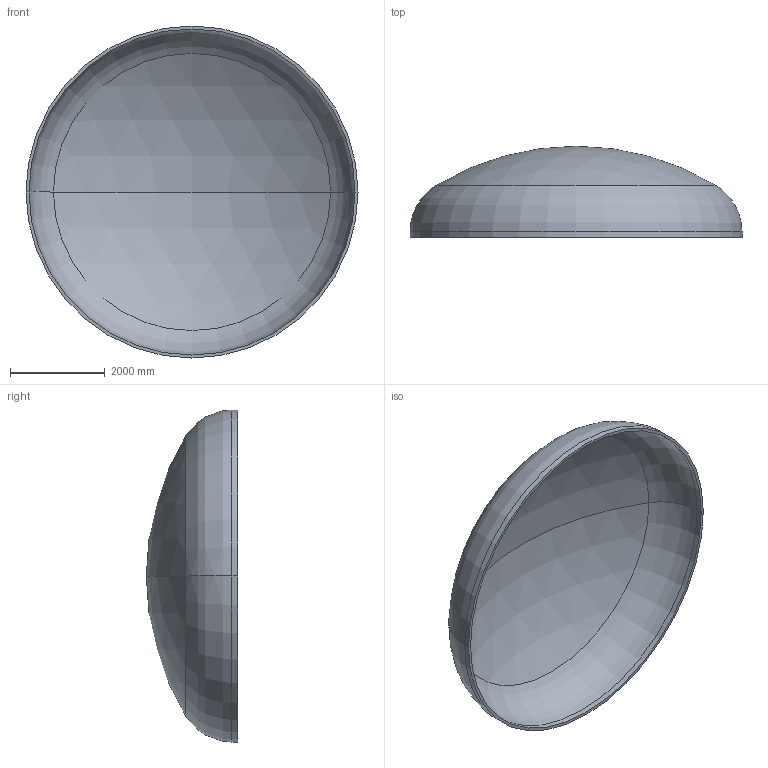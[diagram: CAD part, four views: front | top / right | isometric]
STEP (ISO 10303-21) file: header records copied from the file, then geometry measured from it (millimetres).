
FILE_DESCRIPTION (( 'STEP AP203' ), '1' );
FILE_NAME ('DIN 28013 Korbbogenform_-_Boden DIN 28013 - 7000 x 120 - I - s=62.step', '2016-07-04T10:48:31', ( '' ), ( '' ), 'SwSTEP 2.0', 'SolidWorks 2013', '' );
FILE_SCHEMA (( 'CONFIG_CONTROL_DESIGN' ));
Length unit declared in the file: millimetre
Products named in the file (1): DIN 28013 Korbbogenform_-_Boden DIN 28013 - 7000 x 120 - I - s=62
Bounding box: 7000 x 1925.81 x 7000 mm (x, y, z)
Volume: 3429509170 mm3; surface area: 111988711.2 mm2
Topology: 1 solids, 1 shells, 13 faces, 24 edges, 14 vertices
Faces by surface type: torus 4, cylinder 4, sphere 4, plane 1
Entity records: 407 total; most frequent: DIRECTION 72, CARTESIAN_POINT 52, ORIENTED_EDGE 48, AXIS2_PLACEMENT_3D 34, EDGE_CURVE 24, CIRCLE 20, EDGE_LOOP 14, VERTEX_POINT 14
